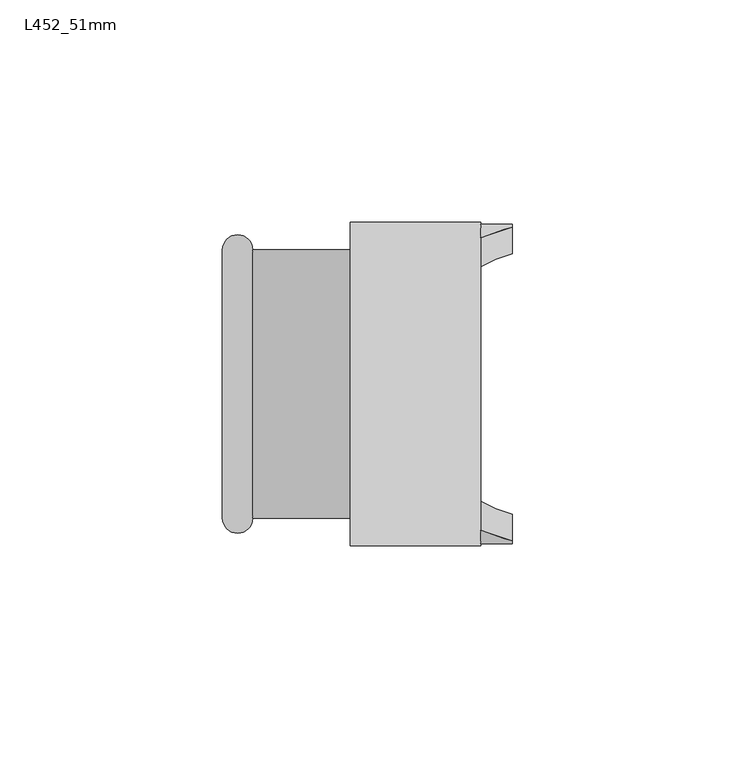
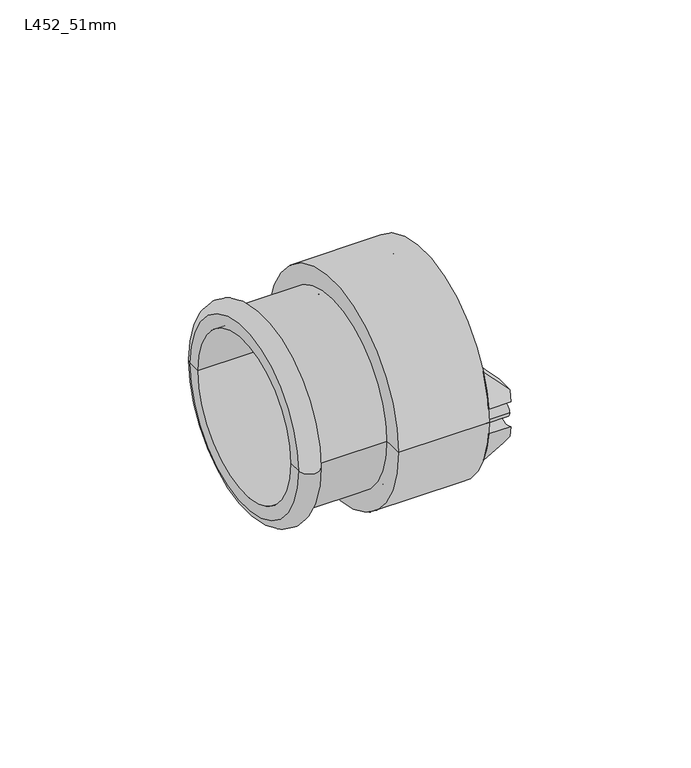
"""IFC4 building model written with IfcOpenShell, lengths in millimetres: pipe fitting geometry, Durapipe_PipeFitting_VulcatheneEnfusion_GlassAdaptor_L45 : L452_51mm."""

from ifc_helpers import new_model, si_unit, point, frame, frame_2d, origin, place, context, project, spatial, polyline, circle_curve, ellipse_curve, trimmed, segment, composite_curve, outline, extrude, source, transform, mapped, element, save
from ifc_brep_helpers import plane_surface, cylinder_surface, revolved_surface, advanced_brep


def l452_51mm_fd796921(model_context):
    return source(origin(), model_context, "Body", "SolidModel", [
        advanced_brep(
        [(36.1, -30.0525301, -3.864639), (36.1, -35.9025301, -4.2226571), (36.1, -35.2672497, -7.94), (36.1, -29.2411764, -7.94), (29.0, -32.8910702, -15.0), (29.0, -35.9025301, -4.2226571), (29.0, -30.0525301, -3.864639), (29.0, -26.3266025, -15.0)],
        [
            (0, 1, circle_curve(frame((36.1, -33.225, 0.0), z_axis=(-1.0, 0.0, 0.0), x_axis=(0.0, 1.0, 0.0)), 5.0)),
            (1, 2, circle_curve(frame((36.1, 0.0, 0.0), z_axis=(1.0, 0.0, 0.0), x_axis=(0.0, 1.0, 0.0)), 36.15)),
            (2, 3),
            (3, 0, circle_curve(frame((36.1, 0.0, 0.0), z_axis=(-1.0, 0.0, 0.0), x_axis=(0.0, 1.0, 0.0)), 30.3)),
            (4, 5, circle_curve(frame((29.0, 0.0, 0.0), z_axis=(-1.0, 0.0, 0.0), x_axis=(0.0, 1.0, 0.0)), 36.15)),
            (5, 6, circle_curve(frame((29.0, -33.225, 0.0), z_axis=(1.0, 0.0, 0.0), x_axis=(0.0, 1.0, 0.0)), 5.0)),
            (6, 7, circle_curve(frame((29.0, 0.0, 0.0), z_axis=(1.0, 0.0, 0.0), x_axis=(0.0, 1.0, 0.0)), 30.3)),
            (7, 4),
            (6, 0),
            (3, 7, ellipse_curve(frame((44.0849858, 0.0, 0.0), z_axis=(0.705106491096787, 0.0, -0.7091014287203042), x_axis=(-0.7091014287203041, 0.0, -0.705106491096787)), 42.9722324, 30.3)),
            (4, 2, ellipse_curve(frame((44.0849858, 0.0, 0.0), z_axis=(-0.705106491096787, 0.0, 0.7091014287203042), x_axis=(0.7091014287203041, 0.0, 0.705106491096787)), 51.2688515, 36.15)),
            (1, 5),
        ],
        [
            plane_surface(frame((36.1, -32.8910702, -15.0), z_axis=(1.0, 0.0, 0.0), x_axis=(0.0, 1.0, 0.0))),
            plane_surface(frame((29.0, -32.8910702, -15.0), z_axis=(-1.0, 0.0, 0.0), x_axis=(0.0, -1.0, 0.0))),
            revolved_surface(polyline([(13.613314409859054, 30.3, 0.0), (74.55665719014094, 30.3, 0.0)]), (29.0, 0.0, 0.0), (-1.0, 0.0, 0.0)),
            cylinder_surface(frame((29.0, 0.0, 0.0), z_axis=(1.0, 0.0, 0.0), x_axis=(0.0, 1.0, 0.0)), 36.15),
            revolved_surface(polyline([(36.1, -28.225, 0.0), (29.0, -28.225, 0.0)]), (29.0, -33.225, 0.0), (1.0, 0.0, 0.0)),
            plane_surface(frame((29.0, 36.15, -15.0), z_axis=(0.705106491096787, 0.0, -0.7091014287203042), x_axis=(0.0, -1.0, 0.0))),
        ],
        [
            (0, [[1, 2, 3, 4]]),
            (1, [[5, 6, 7, 8]]),
            (2, [[-7, 9, -4, 10]]),
            (3, [[-5, 11, -2, 12]]),
            (4, [[-1, -9, -6, -12]]),
            (5, [[-3, -11, -8, -10]]),
        ],
    ),
        advanced_brep(
        [(36.1, -35.9025301, 4.2226571), (36.1, -30.0525301, 3.864639), (36.1, -29.2411764, 7.94), (36.1, -35.2672497, 7.94), (29.0, -35.9025301, 4.2226571), (29.0, -32.8910702, 15.0), (29.0, -26.3266025, 15.0), (29.0, -30.0525301, 3.864639)],
        [
            (0, 1, circle_curve(frame((36.1, -33.225, 0.0), z_axis=(-1.0, 0.0, 0.0), x_axis=(0.0, 1.0, 0.0)), 5.0)),
            (1, 2, circle_curve(frame((36.1, 0.0, 0.0), z_axis=(-1.0, 0.0, 0.0), x_axis=(0.0, 1.0, 0.0)), 30.3)),
            (2, 3),
            (3, 0, circle_curve(frame((36.1, 0.0, 0.0), z_axis=(1.0, 0.0, 0.0), x_axis=(0.0, 1.0, 0.0)), 36.15)),
            (4, 5, circle_curve(frame((29.0, 0.0, 0.0), z_axis=(-1.0, 0.0, 0.0), x_axis=(0.0, 1.0, 0.0)), 36.15)),
            (5, 6),
            (6, 7, circle_curve(frame((29.0, 0.0, 0.0), z_axis=(1.0, 0.0, 0.0), x_axis=(0.0, 1.0, 0.0)), 30.3)),
            (7, 4, circle_curve(frame((29.0, -33.225, 0.0), z_axis=(1.0, 0.0, 0.0), x_axis=(0.0, 1.0, 0.0)), 5.0)),
            (6, 2, ellipse_curve(frame((44.0849858, 0.0, 0.0), z_axis=(0.7051064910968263, 0.0, 0.7091014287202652), x_axis=(-0.7091014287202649, 0.0, 0.7051064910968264)), 42.9722324, 30.3)),
            (1, 7),
            (4, 0),
            (3, 5, ellipse_curve(frame((44.0849858, 0.0, 0.0), z_axis=(-0.7051064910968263, 0.0, -0.7091014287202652), x_axis=(0.7091014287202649, 0.0, -0.7051064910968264)), 51.2688515, 36.15)),
        ],
        [
            plane_surface(frame((36.1, -32.8910702, -15.0), z_axis=(1.0, 0.0, 0.0), x_axis=(0.0, 1.0, 0.0))),
            plane_surface(frame((29.0, -32.8910702, -15.0), z_axis=(-1.0, 0.0, 0.0), x_axis=(0.0, -1.0, 0.0))),
            revolved_surface(polyline([(13.613314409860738, 30.3, 0.0), (74.55665719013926, 30.3, 0.0)]), (29.0, 0.0, 0.0), (-1.0, 0.0, 0.0)),
            cylinder_surface(frame((29.0, 0.0, 0.0), z_axis=(1.0, 0.0, 0.0), x_axis=(0.0, 1.0, 0.0)), 36.15),
            revolved_surface(polyline([(36.1, -28.225, 0.0), (29.0, -28.225, 0.0)]), (29.0, -33.225, 0.0), (1.0, 0.0, 0.0)),
            plane_surface(frame((36.1, 36.15, 7.94), z_axis=(0.7051064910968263, 0.0, 0.7091014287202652), x_axis=(0.0, -1.0, 0.0))),
        ],
        [
            (0, [[1, 2, 3, 4]]),
            (1, [[5, 6, 7, 8]]),
            (2, [[-7, 9, -2, 10]]),
            (3, [[-5, 11, -4, 12]]),
            (4, [[-1, -11, -8, -10]]),
            (5, [[-3, -9, -6, -12]]),
        ],
    ),
        advanced_brep(
        [(36.1, 35.9025301, -4.2226571), (36.1, 30.0525301, -3.864639), (36.1, 29.2411764, -7.94), (36.1, 35.2672497, -7.94), (29.0, 35.9025301, -4.2226571), (29.0, 32.8910702, -15.0), (29.0, 26.3266025, -15.0), (29.0, 30.0525301, -3.864639)],
        [
            (0, 1, circle_curve(frame((36.1, 33.225, 0.0), z_axis=(-1.0, 0.0, 0.0), x_axis=(0.0, 1.0, 0.0)), 5.0)),
            (1, 2, circle_curve(frame((36.1, 0.0, 0.0), z_axis=(-1.0, 0.0, 0.0), x_axis=(0.0, 1.0, 0.0)), 30.3)),
            (2, 3),
            (3, 0, circle_curve(frame((36.1, 0.0, 0.0), z_axis=(1.0, 0.0, 0.0), x_axis=(0.0, 1.0, 0.0)), 36.15)),
            (4, 5, circle_curve(frame((29.0, 0.0, 0.0), z_axis=(-1.0, 0.0, 0.0), x_axis=(0.0, 1.0, 0.0)), 36.15)),
            (5, 6),
            (6, 7, circle_curve(frame((29.0, 0.0, 0.0), z_axis=(1.0, 0.0, 0.0), x_axis=(0.0, 1.0, 0.0)), 30.3)),
            (7, 4, circle_curve(frame((29.0, 33.225, 0.0), z_axis=(1.0, 0.0, 0.0), x_axis=(0.0, 1.0, 0.0)), 5.0)),
            (6, 2, ellipse_curve(frame((44.0849858, 0.0, 0.0), z_axis=(0.705106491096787, 0.0, -0.7091014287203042), x_axis=(-0.7091014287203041, 0.0, -0.705106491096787)), 42.9722324, 30.3)),
            (1, 7),
            (4, 0),
            (3, 5, ellipse_curve(frame((44.0849858, 0.0, 0.0), z_axis=(-0.705106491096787, 0.0, 0.7091014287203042), x_axis=(0.7091014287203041, 0.0, 0.705106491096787)), 51.2688515, 36.15)),
        ],
        [
            plane_surface(frame((36.1, -32.8910702, -15.0), z_axis=(1.0, 0.0, 0.0), x_axis=(0.0, 1.0, 0.0))),
            plane_surface(frame((29.0, -32.8910702, -15.0), z_axis=(-1.0, 0.0, 0.0), x_axis=(0.0, -1.0, 0.0))),
            revolved_surface(polyline([(13.613314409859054, 30.3, 0.0), (74.55665719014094, 30.3, 0.0)]), (29.0, 0.0, 0.0), (-1.0, 0.0, 0.0)),
            cylinder_surface(frame((29.0, 0.0, 0.0), z_axis=(1.0, 0.0, 0.0), x_axis=(0.0, 1.0, 0.0)), 36.15),
            revolved_surface(polyline([(36.1, 38.225, 0.0), (29.0, 38.225, 0.0)]), (29.0, 33.225, 0.0), (1.0, 0.0, 0.0)),
            plane_surface(frame((29.0, 36.15, -15.0), z_axis=(0.705106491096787, 0.0, -0.7091014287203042), x_axis=(0.0, -1.0, 0.0))),
        ],
        [
            (0, [[1, 2, 3, 4]]),
            (1, [[5, 6, 7, 8]]),
            (2, [[-7, 9, -2, 10]]),
            (3, [[-5, 11, -4, 12]]),
            (4, [[-1, -11, -8, -10]]),
            (5, [[-3, -9, -6, -12]]),
        ],
    ),
        advanced_brep(
        [(36.1, 30.0525301, 3.864639), (36.1, 35.9025301, 4.2226571), (36.1, 35.2672497, 7.94), (36.1, 29.2411764, 7.94), (29.0, 32.8910702, 15.0), (29.0, 35.9025301, 4.2226571), (29.0, 30.0525301, 3.864639), (29.0, 26.3266025, 15.0)],
        [
            (0, 1, circle_curve(frame((36.1, 33.225, 0.0), z_axis=(-1.0, 0.0, 0.0), x_axis=(0.0, 1.0, 0.0)), 5.0)),
            (1, 2, circle_curve(frame((36.1, 0.0, 0.0), z_axis=(1.0, 0.0, 0.0), x_axis=(0.0, 1.0, 0.0)), 36.15)),
            (2, 3),
            (3, 0, circle_curve(frame((36.1, 0.0, 0.0), z_axis=(-1.0, 0.0, 0.0), x_axis=(0.0, 1.0, 0.0)), 30.3)),
            (4, 5, circle_curve(frame((29.0, 0.0, 0.0), z_axis=(-1.0, 0.0, 0.0), x_axis=(0.0, 1.0, 0.0)), 36.15)),
            (5, 6, circle_curve(frame((29.0, 33.225, 0.0), z_axis=(1.0, 0.0, 0.0), x_axis=(0.0, 1.0, 0.0)), 5.0)),
            (6, 7, circle_curve(frame((29.0, 0.0, 0.0), z_axis=(1.0, 0.0, 0.0), x_axis=(0.0, 1.0, 0.0)), 30.3)),
            (7, 4),
            (6, 0),
            (3, 7, ellipse_curve(frame((44.0849858, 0.0, 0.0), z_axis=(0.7051064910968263, 0.0, 0.7091014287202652), x_axis=(-0.7091014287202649, 0.0, 0.7051064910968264)), 42.9722324, 30.3)),
            (4, 2, ellipse_curve(frame((44.0849858, 0.0, 0.0), z_axis=(-0.7051064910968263, 0.0, -0.7091014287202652), x_axis=(0.7091014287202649, 0.0, -0.7051064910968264)), 51.2688515, 36.15)),
            (1, 5),
        ],
        [
            plane_surface(frame((36.1, -32.8910702, -15.0), z_axis=(1.0, 0.0, 0.0), x_axis=(0.0, 1.0, 0.0))),
            plane_surface(frame((29.0, -32.8910702, -15.0), z_axis=(-1.0, 0.0, 0.0), x_axis=(0.0, -1.0, 0.0))),
            revolved_surface(polyline([(13.613314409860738, 30.3, 0.0), (74.55665719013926, 30.3, 0.0)]), (29.0, 0.0, 0.0), (-1.0, 0.0, 0.0)),
            cylinder_surface(frame((29.0, 0.0, 0.0), z_axis=(1.0, 0.0, 0.0), x_axis=(0.0, 1.0, 0.0)), 36.15),
            revolved_surface(polyline([(36.1, 38.225, 0.0), (29.0, 38.225, 0.0)]), (29.0, 33.225, 0.0), (1.0, 0.0, 0.0)),
            plane_surface(frame((36.1, 36.15, 7.94), z_axis=(0.7051064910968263, 0.0, 0.7091014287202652), x_axis=(0.0, -1.0, 0.0))),
        ],
        [
            (0, [[1, 2, 3, 4]]),
            (1, [[5, 6, 7, 8]]),
            (2, [[-7, 9, -4, 10]]),
            (3, [[-5, 11, -2, 12]]),
            (4, [[-1, -9, -6, -12]]),
            (5, [[-3, -11, -8, -10]]),
        ],
    ),
        extrude(outline(composite_curve([segment(trimmed(circle_curve(frame_2d((-33.225, 0.0)), 2.0), [point((-35.225, 0.0))], [point((-31.225, 0.0))], False, "CARTESIAN"), True, "CONTINUOUS"), segment(trimmed(circle_curve(frame_2d((-33.225, 0.0)), 2.0), [point((-31.225, 0.0))], [point((-35.225, 0.0))], False, "CARTESIAN"), True, "CONTINUOUS")], self_intersect=False)), frame((29.0, 0.0, 0.0), z_axis=(1.0, 0.0, 0.0), x_axis=(0.0, 1.0, 0.0)), (0.0, 0.0, 1.0), 7.1),
        extrude(outline(composite_curve([segment(trimmed(circle_curve(frame_2d((33.225, 0.0)), 2.0), [point((31.225, 0.0))], [point((35.225, 0.0))], False, "CARTESIAN"), True, "CONTINUOUS"), segment(trimmed(circle_curve(frame_2d((33.225, 0.0)), 2.0), [point((35.225, 0.0))], [point((31.225, 0.0))], False, "CARTESIAN"), True, "CONTINUOUS")], self_intersect=False)), frame((29.0, 0.0, 0.0), z_axis=(1.0, 0.0, 0.0), x_axis=(0.0, 1.0, 0.0)), (0.0, 0.0, 1.0), 7.1),
        advanced_brep(
        [(3.6, -26.0, 0.0), (3.6, 26.0, 0.0), (3.6, 30.15, 0.0), (3.6, -30.15, 0.0), (-0.3, -26.0, 0.0), (-0.3, 26.0, 0.0), (-0.3, -36.3, 0.0), (-0.3, 36.3, 0.0), (29.0, -36.3, 0.0), (29.0, 36.3, 0.0), (29.0, -30.15, 0.0), (29.0, 30.15, 0.0)],
        [
            (0, 1, circle_curve(frame((3.6, 0.0, 0.0), z_axis=(-1.0, 0.0, 0.0), x_axis=(0.0, 1.0, 0.0)), 26.0)),
            (1, 2),
            (2, 3, circle_curve(frame((3.6, 0.0, 0.0), z_axis=(1.0, 0.0, 0.0), x_axis=(0.0, 1.0, 0.0)), 30.15)),
            (3, 0),
            (1, 0, circle_curve(frame((3.6, 0.0, 0.0), z_axis=(-1.0, 0.0, 0.0), x_axis=(0.0, 1.0, 0.0)), 26.0)),
            (3, 2, circle_curve(frame((3.6, 0.0, 0.0), z_axis=(1.0, 0.0, 0.0), x_axis=(0.0, 1.0, 0.0)), 30.15)),
            (4, 5, circle_curve(frame((-0.3, 0.0, 0.0), z_axis=(-1.0, 0.0, 0.0), x_axis=(0.0, 1.0, 0.0)), 26.0)),
            (5, 1),
            (0, 4),
            (5, 4, circle_curve(frame((-0.3, 0.0, 0.0), z_axis=(-1.0, 0.0, 0.0), x_axis=(0.0, 1.0, 0.0)), 26.0)),
            (6, 7, circle_curve(frame((-0.3, 0.0, 0.0), z_axis=(-1.0, 0.0, 0.0), x_axis=(0.0, 1.0, 0.0)), 36.3)),
            (7, 5),
            (4, 6),
            (7, 6, circle_curve(frame((-0.3, 0.0, 0.0), z_axis=(-1.0, 0.0, 0.0), x_axis=(0.0, 1.0, 0.0)), 36.3)),
            (8, 9, circle_curve(frame((29.0, 0.0, 0.0), z_axis=(-1.0, 0.0, 0.0), x_axis=(0.0, 1.0, 0.0)), 36.3)),
            (9, 7),
            (6, 8),
            (9, 8, circle_curve(frame((29.0, 0.0, 0.0), z_axis=(-1.0, 0.0, 0.0), x_axis=(0.0, 1.0, 0.0)), 36.3)),
            (10, 11, circle_curve(frame((29.0, 0.0, 0.0), z_axis=(-1.0, 0.0, 0.0), x_axis=(0.0, 1.0, 0.0)), 30.15)),
            (11, 9),
            (8, 10),
            (11, 10, circle_curve(frame((29.0, 0.0, 0.0), z_axis=(-1.0, 0.0, 0.0), x_axis=(0.0, 1.0, 0.0)), 30.15)),
            (2, 11),
            (10, 3),
        ],
        [
            plane_surface(frame((3.6, 0.0, 0.0), z_axis=(1.0, 0.0, 0.0), x_axis=(0.0, 1.0, 0.0))),
            revolved_surface(polyline([(3.599999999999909, 26.0, 0.0), (-0.3000000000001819, 26.0, 0.0)]), (2542.9826241, 0.0, 0.0), (1.0, 0.0, 0.0)),
            plane_surface(frame((-0.3, 0.0, 0.0), z_axis=(-1.0, 0.0, 0.0), x_axis=(0.0, 1.0, 0.0))),
            cylinder_surface(frame((2542.9826241, 0.0, 0.0), z_axis=(1.0, 0.0, 0.0), x_axis=(0.0, 1.0, 0.0)), 36.3),
            plane_surface(frame((29.0, 0.0, 0.0), z_axis=(1.0, 0.0, 0.0), x_axis=(0.0, 1.0, 0.0))),
            revolved_surface(polyline([(29.0, 30.15, 0.0), (3.599999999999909, 30.15, 0.0)]), (2542.9826241, 0.0, 0.0), (1.0, 0.0, 0.0)),
        ],
        [
            (0, [[1, 2, 3, 4]]),
            (0, [[5, -4, 6, -2]]),
            (1, [[7, 8, -1, 9]]),
            (1, [[10, -9, -5, -8]]),
            (2, [[11, 12, -7, 13]]),
            (2, [[14, -13, -10, -12]]),
            (3, [[15, 16, -11, 17]]),
            (3, [[18, -17, -14, -16]]),
            (4, [[19, 20, -15, 21]]),
            (4, [[22, -21, -18, -20]]),
            (5, [[-3, 23, -19, 24]]),
            (5, [[-6, -24, -22, -23]]),
        ],
    ),
        advanced_brep(
        [(3.6, -30.15, 0.0), (3.6, 30.15, 0.0), (3.6, 26.0, 0.0), (3.6, -26.0, 0.0), (-22.2, -30.15, 0.0), (-22.2, 30.15, 0.0), (-29.0, -26.0, 0.0), (-29.0, 26.0, 0.0), (-29.0, 30.15, 0.0), (-29.0, -30.15, 0.0)],
        [
            (0, 1, circle_curve(frame((3.6, 0.0, 0.0), z_axis=(1.0, 0.0, 0.0), x_axis=(0.0, 1.0, 0.0)), 30.15)),
            (1, 2),
            (2, 3, circle_curve(frame((3.6, 0.0, 0.0), z_axis=(-1.0, 0.0, 0.0), x_axis=(0.0, 1.0, 0.0)), 26.0)),
            (3, 0),
            (1, 0, circle_curve(frame((3.6, 0.0, 0.0), z_axis=(1.0, 0.0, 0.0), x_axis=(0.0, 1.0, 0.0)), 30.15)),
            (3, 2, circle_curve(frame((3.6, 0.0, 0.0), z_axis=(-1.0, 0.0, 0.0), x_axis=(0.0, 1.0, 0.0)), 26.0)),
            (4, 5, circle_curve(frame((-22.2, 0.0, 0.0), z_axis=(1.0, 0.0, 0.0), x_axis=(0.0, 1.0, 0.0)), 30.15)),
            (5, 1),
            (0, 4),
            (5, 4, circle_curve(frame((-22.2, 0.0, 0.0), z_axis=(1.0, 0.0, 0.0), x_axis=(0.0, 1.0, 0.0)), 30.15)),
            (6, 7, circle_curve(frame((-29.0, 0.0, 0.0), z_axis=(1.0, 0.0, 0.0), x_axis=(0.0, 1.0, 0.0)), 26.0)),
            (7, 8),
            (8, 9, circle_curve(frame((-29.0, 0.0, 0.0), z_axis=(-1.0, 0.0, 0.0), x_axis=(0.0, 1.0, 0.0)), 30.15)),
            (9, 6),
            (7, 6, circle_curve(frame((-29.0, 0.0, 0.0), z_axis=(1.0, 0.0, 0.0), x_axis=(0.0, 1.0, 0.0)), 26.0)),
            (9, 8, circle_curve(frame((-29.0, 0.0, 0.0), z_axis=(-1.0, 0.0, 0.0), x_axis=(0.0, 1.0, 0.0)), 30.15)),
            (2, 7),
            (6, 3),
            (8, 5, circle_curve(frame((-25.6, 30.15, 0.0), z_axis=(0.0, 0.0, -1.0), x_axis=(1.0, 0.0, 0.0)), 3.4)),
            (4, 9, circle_curve(frame((-25.6, -30.15, 0.0), z_axis=(0.0, 0.0, -1.0), x_axis=(1.0, 0.0, 0.0)), 3.4)),
        ],
        [
            plane_surface(frame((3.6, 0.0, 0.0), z_axis=(1.0, 0.0, 0.0), x_axis=(0.0, 1.0, 0.0))),
            cylinder_surface(frame((-13.4148603, 0.0, 0.0), z_axis=(-1.0, 0.0, 0.0), x_axis=(0.0, 1.0, 0.0)), 30.15),
            plane_surface(frame((-29.0, 0.0, 0.0), z_axis=(-1.0, 0.0, 0.0), x_axis=(0.0, 1.0, 0.0))),
            revolved_surface(polyline([(-29.0, 26.0, 0.0), (3.6000000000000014, 26.0, 0.0)]), (-13.4148603, 0.0, 0.0), (-1.0, 0.0, 0.0)),
            revolved_surface(trimmed(ellipse_curve(frame((-25.6, 30.15, 0.0), z_axis=(0.0, 0.0, 1.0), x_axis=(1.0, 0.0, 0.0)), 3.4, 3.4), [point((-22.2, 30.15, 0.0))], [point((-29.0, 30.15, 0.0))], True, "CARTESIAN"), (-13.4148603, 0.0, 0.0), (-1.0, 0.0, 0.0)),
        ],
        [
            (0, [[1, 2, 3, 4]]),
            (0, [[5, -4, 6, -2]]),
            (1, [[7, 8, -1, 9]]),
            (1, [[10, -9, -5, -8]]),
            (2, [[11, 12, 13, 14]]),
            (2, [[15, -14, 16, -12]]),
            (3, [[-3, 17, -11, 18]]),
            (3, [[-6, -18, -15, -17]]),
            (4, [[-13, 19, -7, 20]]),
            (4, [[-16, -20, -10, -19]]),
        ],
    ),
    ])


if __name__ == "__main__":
    model = new_model("IFC4")
    model_context = context("Model", 3, world=origin())
    ifc_project = project(units=[si_unit("LENGTHUNIT", "METRE", prefix="MILLI")], contexts=[model_context])
    site = spatial("IfcSite", under=ifc_project)
    building = spatial("IfcBuilding", under=site)
    placement = place(None, origin())
    l452_51mm_shape = l452_51mm_fd796921(model_context)
    element("IfcPipeFitting", 1, ObjectType="Durapipe_PipeFitting_VulcatheneEnfusion_GlassAdaptor_L45 : L452_51mm", at=placement, inside=building, context=model_context, shape_type="MappedRepresentation", body=[
        mapped(l452_51mm_shape, transform((0.0, 0.0, 0.0), x_axis=(1.0, 0.0, 0.0), y_axis=(0.0, 1.0, 0.0), z_axis=(0.0, 0.0, 1.0))),
    ])
    save(model, "model.ifc")
